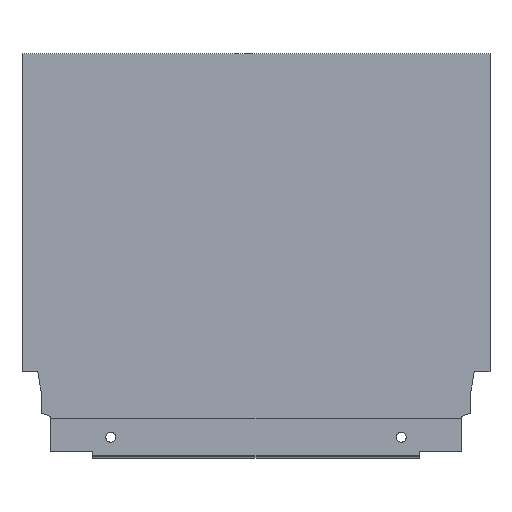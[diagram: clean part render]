
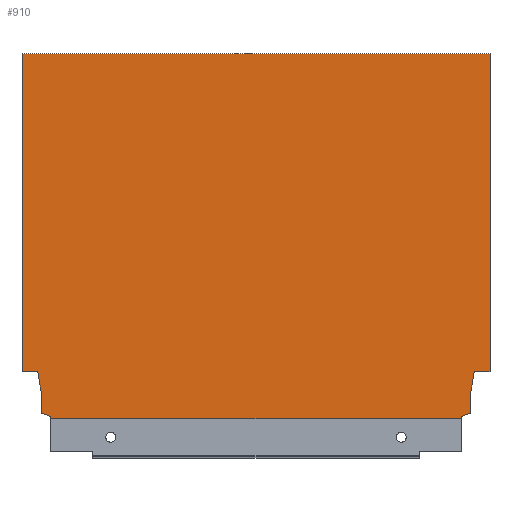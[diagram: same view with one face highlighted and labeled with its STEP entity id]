
A CAD part, top view. The second image highlights one B-rep face of the part: STEP entity #910.
In plain terms, the highlighted planar face has unit normal (0, 0, 1).
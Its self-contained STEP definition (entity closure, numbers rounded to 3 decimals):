
#13 = VERTEX_POINT ( 'NONE', #1437 ) ;
#15 = VERTEX_POINT ( 'NONE', #1436 ) ;
#16 = VERTEX_POINT ( 'NONE', #309 ) ;
#18 = VERTEX_POINT ( 'NONE', #310 ) ;
#23 = VERTEX_POINT ( 'NONE', #314 ) ;
#59 = CARTESIAN_POINT ( 'NONE',  ( -211., 0., 7.5 ) ) ;
#68 = PLANE ( 'NONE',  #97 ) ;
#72 = DIRECTION ( 'NONE',  ( 1., 0., 0. ) ) ;
#73 = DIRECTION ( 'NONE',  ( 0., 0., 1. ) ) ;
#80 = VERTEX_POINT ( 'NONE', #331 ) ;
#89 = VERTEX_POINT ( 'NONE', #338 ) ;
#97 = AXIS2_PLACEMENT_3D ( 'NONE', #59, #73, #72 ) ;
#159 = CARTESIAN_POINT ( 'NONE',  ( 0., 21.2, 7.5 ) ) ;
#173 = CARTESIAN_POINT ( 'NONE',  ( -8.9, 10.765, 7.5 ) ) ;
#174 = CARTESIAN_POINT ( 'NONE',  ( -197.996, 0., 7.5 ) ) ;
#176 = CARTESIAN_POINT ( 'NONE',  ( -7.06, 21.2, 7.5 ) ) ;
#178 = CARTESIAN_POINT ( 'NONE',  ( -13.004, 1.146, 7.5 ) ) ;
#181 = CARTESIAN_POINT ( 'NONE',  ( -211., 21.2, 7.5 ) ) ;
#184 = CARTESIAN_POINT ( 'NONE',  ( -8.9, 2.64, 7.5 ) ) ;
#270 = VERTEX_POINT ( 'NONE', #159 ) ;
#283 = VERTEX_POINT ( 'NONE', #173 ) ;
#284 = VERTEX_POINT ( 'NONE', #174 ) ;
#285 = VERTEX_POINT ( 'NONE', #176 ) ;
#287 = VERTEX_POINT ( 'NONE', #178 ) ;
#290 = VERTEX_POINT ( 'NONE', #181 ) ;
#292 = VERTEX_POINT ( 'NONE', #184 ) ;
#309 = CARTESIAN_POINT ( 'NONE',  ( -203.94, 21.2, 7.5 ) ) ;
#310 = CARTESIAN_POINT ( 'NONE',  ( 0., 164.7, 7.5 ) ) ;
#314 = CARTESIAN_POINT ( 'NONE',  ( -13.004, 0., 7.5 ) ) ;
#331 = CARTESIAN_POINT ( 'NONE',  ( -197.996, 1.146, 7.5 ) ) ;
#338 = CARTESIAN_POINT ( 'NONE',  ( -211., 164.7, 7.5 ) ) ;
#479 = EDGE_LOOP ( 'NONE', ( #534, #535, #536, #537, #538, #539, #540, #541, #542, #543, #544, #545, #546, #547 ) ) ;
#534 = ORIENTED_EDGE ( 'NONE', *, *, #723, .T. ) ;
#535 = ORIENTED_EDGE ( 'NONE', *, *, #722, .F. ) ;
#536 = ORIENTED_EDGE ( 'NONE', *, *, #719, .F. ) ;
#537 = ORIENTED_EDGE ( 'NONE', *, *, #724, .F. ) ;
#538 = ORIENTED_EDGE ( 'NONE', *, *, #721, .F. ) ;
#539 = ORIENTED_EDGE ( 'NONE', *, *, #718, .F. ) ;
#540 = ORIENTED_EDGE ( 'NONE', *, *, #717, .T. ) ;
#541 = ORIENTED_EDGE ( 'NONE', *, *, #726, .F. ) ;
#542 = ORIENTED_EDGE ( 'NONE', *, *, #728, .F. ) ;
#543 = ORIENTED_EDGE ( 'NONE', *, *, #725, .F. ) ;
#544 = ORIENTED_EDGE ( 'NONE', *, *, #727, .F. ) ;
#545 = ORIENTED_EDGE ( 'NONE', *, *, #729, .F. ) ;
#546 = ORIENTED_EDGE ( 'NONE', *, *, #730, .F. ) ;
#547 = ORIENTED_EDGE ( 'NONE', *, *, #731, .F. ) ;
#717 = EDGE_CURVE ( 'NONE', #284, #23, #1064, .T. ) ;
#718 = EDGE_CURVE ( 'NONE', #284, #80, #1066, .T. ) ;
#719 = EDGE_CURVE ( 'NONE', #13, #16, #1070, .T. ) ;
#721 = EDGE_CURVE ( 'NONE', #80, #15, #1074, .T. ) ;
#722 = EDGE_CURVE ( 'NONE', #16, #290, #1061, .T. ) ;
#723 = EDGE_CURVE ( 'NONE', #89, #290, #1069, .T. ) ;
#724 = EDGE_CURVE ( 'NONE', #15, #13, #1080, .T. ) ;
#725 = EDGE_CURVE ( 'NONE', #283, #292, #1073, .T. ) ;
#726 = EDGE_CURVE ( 'NONE', #287, #23, #1077, .T. ) ;
#727 = EDGE_CURVE ( 'NONE', #285, #283, #1086, .T. ) ;
#728 = EDGE_CURVE ( 'NONE', #292, #287, #1079, .T. ) ;
#729 = EDGE_CURVE ( 'NONE', #270, #285, #1083, .T. ) ;
#730 = EDGE_CURVE ( 'NONE', #18, #270, #1085, .T. ) ;
#731 = EDGE_CURVE ( 'NONE', #89, #18, #1089, .T. ) ;
#868 = DIRECTION ( 'NONE',  ( 1., 0., 0. ) ) ;
#871 = DIRECTION ( 'NONE',  ( 0., -1., 0. ) ) ;
#874 = CARTESIAN_POINT ( 'NONE',  ( -211., 0., 7.5 ) ) ;
#875 = CARTESIAN_POINT ( 'NONE',  ( -211., 164.7, 7.5 ) ) ;
#876 = DIRECTION ( 'NONE',  ( -1., 0., 0. ) ) ;
#877 = CARTESIAN_POINT ( 'NONE',  ( 0., 0., 7.5 ) ) ;
#878 = DIRECTION ( 'NONE',  ( -0.94, -0.342, 0. ) ) ;
#879 = CARTESIAN_POINT ( 'NONE',  ( 0., 21.2, 7.5 ) ) ;
#880 = DIRECTION ( 'NONE',  ( -0.174, -0.985, 0. ) ) ;
#881 = CARTESIAN_POINT ( 'NONE',  ( -7.06, 21.2, 7.5 ) ) ;
#882 = DIRECTION ( 'NONE',  ( 0., -1., 0. ) ) ;
#883 = CARTESIAN_POINT ( 'NONE',  ( -8.9, 2.64, 7.5 ) ) ;
#884 = DIRECTION ( 'NONE',  ( 0., -1., 0. ) ) ;
#885 = CARTESIAN_POINT ( 'NONE',  ( -13.004, 1.146, 7.5 ) ) ;
#886 = DIRECTION ( 'NONE',  ( 0., 1., 0. ) ) ;
#887 = CARTESIAN_POINT ( 'NONE',  ( -202.1, 10.765, 7.5 ) ) ;
#888 = DIRECTION ( 'NONE',  ( 0., -1., 0. ) ) ;
#889 = CARTESIAN_POINT ( 'NONE',  ( -8.9, 10.765, 7.5 ) ) ;
#890 = DIRECTION ( 'NONE',  ( -1., 0., 0. ) ) ;
#910 = ADVANCED_FACE ( 'NONE', ( #1314 ), #68, .T. ) ;
#1018 = DIRECTION ( 'NONE',  ( -0.94, 0.342, 0. ) ) ;
#1019 = CARTESIAN_POINT ( 'NONE',  ( -202.1, 2.64, 7.5 ) ) ;
#1021 = CARTESIAN_POINT ( 'NONE',  ( -216., 21.2, 7.5 ) ) ;
#1022 = DIRECTION ( 'NONE',  ( -0.174, 0.985, 0. ) ) ;
#1023 = CARTESIAN_POINT ( 'NONE',  ( -203.94, 21.2, 7.5 ) ) ;
#1024 = DIRECTION ( 'NONE',  ( 0., 1., 0. ) ) ;
#1026 = DIRECTION ( 'NONE',  ( 1., 0., 0. ) ) ;
#1027 = CARTESIAN_POINT ( 'NONE',  ( -211., 0., 7.5 ) ) ;
#1033 = CARTESIAN_POINT ( 'NONE',  ( -197.996, 1.146, 7.5 ) ) ;
#1061 = LINE ( 'NONE', #1021, #1076 ) ;
#1063 = VECTOR ( 'NONE', #1026, 1000. ) ;
#1064 = LINE ( 'NONE', #1027, #1063 ) ;
#1066 = LINE ( 'NONE', #1033, #1068 ) ;
#1068 = VECTOR ( 'NONE', #1024, 1000. ) ;
#1069 = LINE ( 'NONE', #874, #1078 ) ;
#1070 = LINE ( 'NONE', #1023, #1071 ) ;
#1071 = VECTOR ( 'NONE', #1022, 1000. ) ;
#1073 = LINE ( 'NONE', #889, #1082 ) ;
#1074 = LINE ( 'NONE', #1019, #1075 ) ;
#1075 = VECTOR ( 'NONE', #1018, 1000. ) ;
#1076 = VECTOR ( 'NONE', #890, 1000. ) ;
#1077 = LINE ( 'NONE', #885, #1084 ) ;
#1078 = VECTOR ( 'NONE', #888, 1000. ) ;
#1079 = LINE ( 'NONE', #883, #1088 ) ;
#1080 = LINE ( 'NONE', #887, #1081 ) ;
#1081 = VECTOR ( 'NONE', #886, 1000. ) ;
#1082 = VECTOR ( 'NONE', #884, 1000. ) ;
#1083 = LINE ( 'NONE', #879, #1090 ) ;
#1084 = VECTOR ( 'NONE', #882, 1000. ) ;
#1085 = LINE ( 'NONE', #877, #1092 ) ;
#1086 = LINE ( 'NONE', #881, #1087 ) ;
#1087 = VECTOR ( 'NONE', #880, 1000. ) ;
#1088 = VECTOR ( 'NONE', #878, 1000. ) ;
#1089 = LINE ( 'NONE', #875, #1094 ) ;
#1090 = VECTOR ( 'NONE', #876, 1000. ) ;
#1092 = VECTOR ( 'NONE', #871, 1000. ) ;
#1094 = VECTOR ( 'NONE', #868, 1000. ) ;
#1314 = FACE_OUTER_BOUND ( 'NONE', #479, .T. ) ;
#1436 = CARTESIAN_POINT ( 'NONE',  ( -202.1, 2.64, 7.5 ) ) ;
#1437 = CARTESIAN_POINT ( 'NONE',  ( -202.1, 10.765, 7.5 ) ) ;
